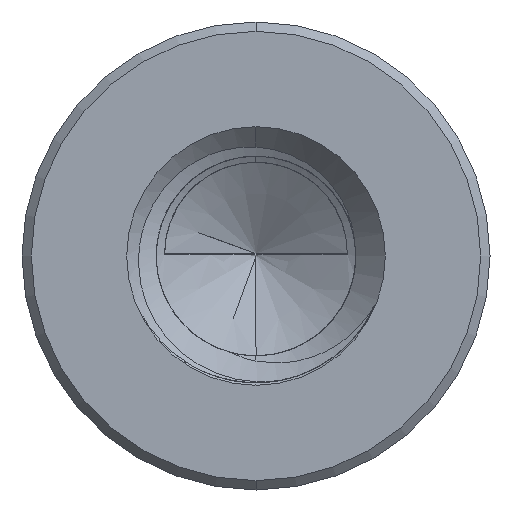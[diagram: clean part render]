
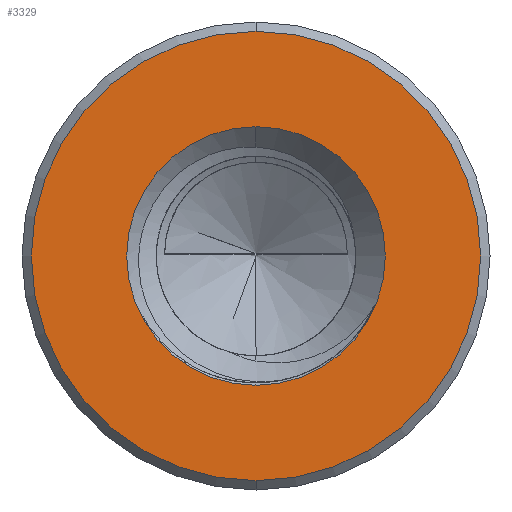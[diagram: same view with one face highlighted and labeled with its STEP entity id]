
A CAD part, front view. The second image highlights one B-rep face of the part: STEP entity #3329.
In plain terms, the highlighted planar face has unit normal (0, -1, 0).
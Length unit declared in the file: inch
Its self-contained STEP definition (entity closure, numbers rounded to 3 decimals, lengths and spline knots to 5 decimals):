
#115 = FACE_OUTER_BOUND ( 'NONE', #5211, .T. ) ;
#229 = EDGE_CURVE ( 'NONE', #5687, #505, #2236, .T. ) ;
#374 = CIRCLE ( 'NONE', #1487, 0.069 ) ;
#505 = VERTEX_POINT ( 'NONE', #1093 ) ;
#577 = ORIENTED_EDGE ( 'NONE', *, *, #2893, .T. ) ;
#659 = DIRECTION ( 'NONE',  ( 0., 1., 0. ) ) ;
#802 = DIRECTION ( 'NONE',  ( 0., 0., 1. ) ) ;
#1069 = EDGE_LOOP ( 'NONE', ( #577, #2489 ) ) ;
#1093 = CARTESIAN_POINT ( 'NONE',  ( 0., 0., -0.069 ) ) ;
#1217 = AXIS2_PLACEMENT_3D ( 'NONE', #4156, #4633, #802 ) ;
#1487 = AXIS2_PLACEMENT_3D ( 'NONE', #1784, #1825, #2373 ) ;
#1542 = AXIS2_PLACEMENT_3D ( 'NONE', #2257, #659, #5553 ) ;
#1673 = CIRCLE ( 'NONE', #6941, 0.11985 ) ;
#1784 = CARTESIAN_POINT ( 'NONE',  ( 0., 0., 0. ) ) ;
#1825 = DIRECTION ( 'NONE',  ( 0., 1., 0. ) ) ;
#1911 = VERTEX_POINT ( 'NONE', #2465 ) ;
#1917 = CIRCLE ( 'NONE', #2722, 0.11985 ) ;
#2236 = CIRCLE ( 'NONE', #1217, 0.069 ) ;
#2257 = CARTESIAN_POINT ( 'NONE',  ( 0., 0., 0. ) ) ;
#2293 = EDGE_CURVE ( 'NONE', #1911, #6422, #1673, .T. ) ;
#2373 = DIRECTION ( 'NONE',  ( 0., 0., 1. ) ) ;
#2465 = CARTESIAN_POINT ( 'NONE',  ( 0., 0., 0.11985 ) ) ;
#2489 = ORIENTED_EDGE ( 'NONE', *, *, #229, .T. ) ;
#2722 = AXIS2_PLACEMENT_3D ( 'NONE', #3932, #4472, #5069 ) ;
#2839 = DIRECTION ( 'NONE',  ( 0., -1., 0. ) ) ;
#2858 = EDGE_CURVE ( 'NONE', #6422, #1911, #1917, .T. ) ;
#2893 = EDGE_CURVE ( 'NONE', #505, #5687, #374, .T. ) ;
#3104 = FACE_BOUND ( 'NONE', #1069, .T. ) ;
#3299 = PLANE ( 'NONE',  #1542 ) ;
#3329 = ADVANCED_FACE ( 'NONE', ( #3104, #115 ), #3299, .F. ) ;
#3355 = DIRECTION ( 'NONE',  ( 0., 0., 1. ) ) ;
#3564 = CARTESIAN_POINT ( 'NONE',  ( 0., 0., -0.11985 ) ) ;
#3932 = CARTESIAN_POINT ( 'NONE',  ( 0., 0., 0. ) ) ;
#4123 = CARTESIAN_POINT ( 'NONE',  ( 0., 0., 0.069 ) ) ;
#4156 = CARTESIAN_POINT ( 'NONE',  ( 0., 0., 0. ) ) ;
#4472 = DIRECTION ( 'NONE',  ( 0., -1., 0. ) ) ;
#4626 = ORIENTED_EDGE ( 'NONE', *, *, #2858, .T. ) ;
#4633 = DIRECTION ( 'NONE',  ( 0., 1., 0. ) ) ;
#5069 = DIRECTION ( 'NONE',  ( 0., 0., 1. ) ) ;
#5211 = EDGE_LOOP ( 'NONE', ( #6980, #4626 ) ) ;
#5553 = DIRECTION ( 'NONE',  ( 0., 0., 1. ) ) ;
#5687 = VERTEX_POINT ( 'NONE', #4123 ) ;
#6095 = CARTESIAN_POINT ( 'NONE',  ( 0., 0., 0. ) ) ;
#6422 = VERTEX_POINT ( 'NONE', #3564 ) ;
#6941 = AXIS2_PLACEMENT_3D ( 'NONE', #6095, #2839, #3355 ) ;
#6980 = ORIENTED_EDGE ( 'NONE', *, *, #2293, .T. ) ;
